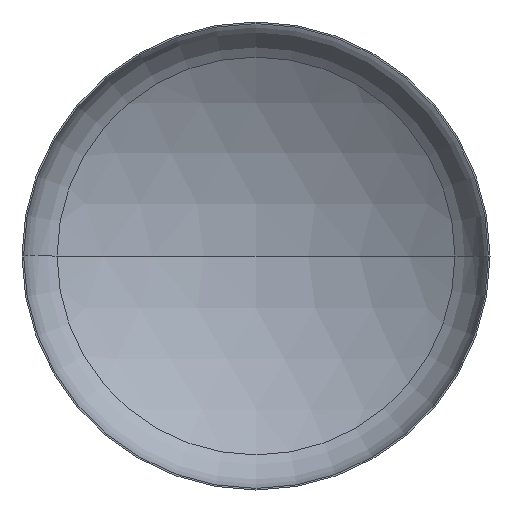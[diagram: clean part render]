
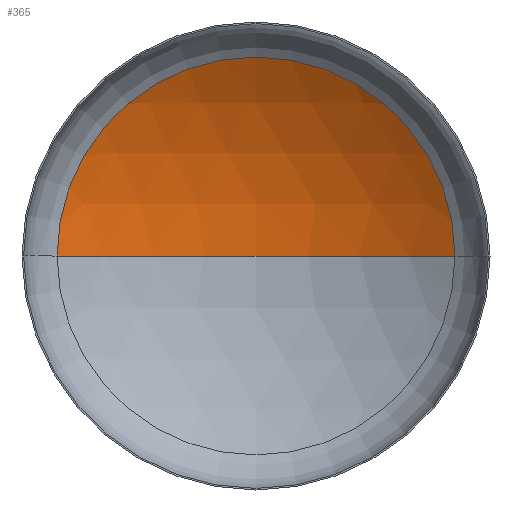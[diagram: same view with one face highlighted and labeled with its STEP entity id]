
A CAD part, front view. The second image highlights one B-rep face of the part: STEP entity #365.
In plain terms, the highlighted spherical face has radius 1440 mm.
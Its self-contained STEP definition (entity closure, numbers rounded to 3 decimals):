
#11 = VERTEX_POINT ( 'NONE', #271 ) ;
#12 = DIRECTION ( 'NONE',  ( 0., 0., 1. ) ) ;
#15 = AXIS2_PLACEMENT_3D ( 'NONE', #327, #68, #110 ) ;
#25 = EDGE_LOOP ( 'NONE', ( #37, #33, #121 ) ) ;
#26 = AXIS2_PLACEMENT_3D ( 'NONE', #300, #161, #165 ) ;
#32 = AXIS2_PLACEMENT_3D ( 'NONE', #328, #97, #373 ) ;
#33 = ORIENTED_EDGE ( 'NONE', *, *, #354, .T. ) ;
#37 = ORIENTED_EDGE ( 'NONE', *, *, #403, .F. ) ;
#68 = DIRECTION ( 'NONE',  ( 0., 0., -1. ) ) ;
#87 = VERTEX_POINT ( 'NONE', #224 ) ;
#97 = DIRECTION ( 'NONE',  ( 0., -1., 0. ) ) ;
#110 = DIRECTION ( 'NONE',  ( -1., 0., 0. ) ) ;
#121 = ORIENTED_EDGE ( 'NONE', *, *, #353, .T. ) ;
#134 = VERTEX_POINT ( 'NONE', #313 ) ;
#161 = DIRECTION ( 'NONE',  ( 0., 0., -1. ) ) ;
#165 = DIRECTION ( 'NONE',  ( -1., 0., 0. ) ) ;
#186 = CIRCLE ( 'NONE', #262, 1440. ) ;
#194 = FACE_OUTER_BOUND ( 'NONE', #25, .T. ) ;
#224 = CARTESIAN_POINT ( 'NONE',  ( 765.116, 252.97, 0. ) ) ;
#257 = CARTESIAN_POINT ( 'NONE',  ( 0., -966.947, 0. ) ) ;
#262 = AXIS2_PLACEMENT_3D ( 'NONE', #257, #12, #281 ) ;
#271 = CARTESIAN_POINT ( 'NONE',  ( 0., 473.053, 0. ) ) ;
#281 = DIRECTION ( 'NONE',  ( 1., 0., 0. ) ) ;
#300 = CARTESIAN_POINT ( 'NONE',  ( 0., -966.947, 0. ) ) ;
#313 = CARTESIAN_POINT ( 'NONE',  ( -765.116, 252.97, 0. ) ) ;
#327 = CARTESIAN_POINT ( 'NONE',  ( 0., -966.947, 0. ) ) ;
#328 = CARTESIAN_POINT ( 'NONE',  ( 0., 252.97, 0. ) ) ;
#337 = CIRCLE ( 'NONE', #26, 1440. ) ;
#353 = EDGE_CURVE ( 'NONE', #87, #134, #391, .T. ) ;
#354 = EDGE_CURVE ( 'NONE', #11, #87, #337, .T. ) ;
#365 = ADVANCED_FACE ( 'NONE', ( #194 ), #386, .F. ) ;
#373 = DIRECTION ( 'NONE',  ( 1., 0., 0. ) ) ;
#386 = SPHERICAL_SURFACE ( 'NONE', #15, 1440. ) ;
#391 = CIRCLE ( 'NONE', #32, 765.116 ) ;
#403 = EDGE_CURVE ( 'NONE', #11, #134, #186, .T. ) ;
